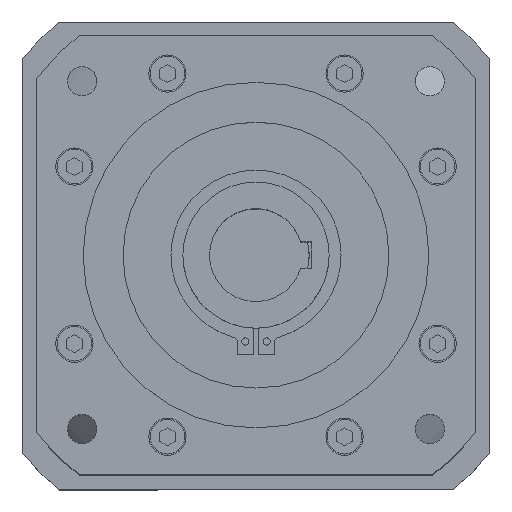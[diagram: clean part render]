
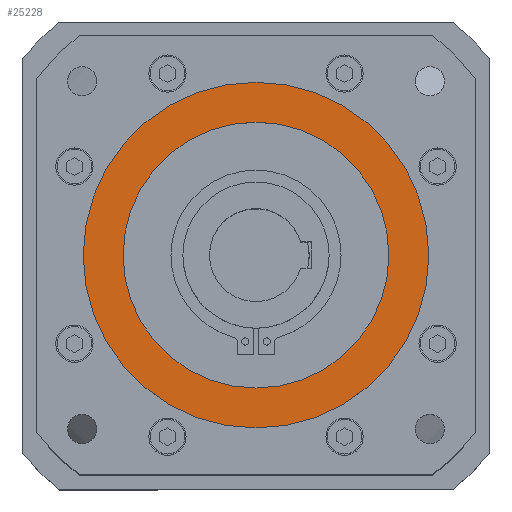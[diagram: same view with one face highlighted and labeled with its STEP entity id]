
A CAD part, top view. The second image highlights one B-rep face of the part: STEP entity #25228.
In plain terms, the highlighted planar face has unit normal (0, 0, 1).
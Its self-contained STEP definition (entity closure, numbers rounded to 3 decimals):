
#1616 = CARTESIAN_POINT ( 'NONE',  ( 0., 0., 0. ) ) ;
#1681 = ORIENTED_EDGE ( 'NONE', *, *, #22004, .F. ) ;
#1929 = CARTESIAN_POINT ( 'NONE',  ( 0., 0., 0. ) ) ;
#2830 = ORIENTED_EDGE ( 'NONE', *, *, #23560, .F. ) ;
#5278 = DIRECTION ( 'NONE',  ( 1., 0., 0. ) ) ;
#5601 = DIRECTION ( 'NONE',  ( 1., 0., 0. ) ) ;
#5812 = VERTEX_POINT ( 'NONE', #41366 ) ;
#9706 = PLANE ( 'NONE',  #42763 ) ;
#9928 = DIRECTION ( 'NONE',  ( 0., 0., 1. ) ) ;
#10499 = DIRECTION ( 'NONE',  ( 0., 0., 1. ) ) ;
#10593 = FACE_BOUND ( 'NONE', #47205, .T. ) ;
#11196 = AXIS2_PLACEMENT_3D ( 'NONE', #1929, #27876, #5601 ) ;
#13408 = DIRECTION ( 'NONE',  ( 0., 0., -1. ) ) ;
#13975 = CIRCLE ( 'NONE', #28811, 65. ) ;
#15085 = CARTESIAN_POINT ( 'NONE',  ( -65., 0., 0. ) ) ;
#15311 = CIRCLE ( 'NONE', #11196, 65. ) ;
#16666 = VERTEX_POINT ( 'NONE', #21629 ) ;
#21629 = CARTESIAN_POINT ( 'NONE',  ( 50., 0., 0. ) ) ;
#22004 = EDGE_CURVE ( 'NONE', #5812, #16666, #47694, .T. ) ;
#23560 = EDGE_CURVE ( 'NONE', #33213, #41074, #15311, .T. ) ;
#25228 = ADVANCED_FACE ( 'NONE', ( #10593, #39400 ), #9706, .F. ) ;
#26516 = EDGE_CURVE ( 'NONE', #41074, #33213, #13975, .T. ) ;
#27532 = DIRECTION ( 'NONE',  ( 0., 0., -1. ) ) ;
#27876 = DIRECTION ( 'NONE',  ( 0., 0., -1. ) ) ;
#28352 = AXIS2_PLACEMENT_3D ( 'NONE', #32923, #10499, #36774 ) ;
#28811 = AXIS2_PLACEMENT_3D ( 'NONE', #1616, #27532, #5278 ) ;
#32328 = CARTESIAN_POINT ( 'NONE',  ( 0., 0., 0. ) ) ;
#32923 = CARTESIAN_POINT ( 'NONE',  ( 0., 0., 0. ) ) ;
#33213 = VERTEX_POINT ( 'NONE', #47627 ) ;
#35262 = ORIENTED_EDGE ( 'NONE', *, *, #26516, .F. ) ;
#35999 = AXIS2_PLACEMENT_3D ( 'NONE', #32328, #9928, #36165 ) ;
#36165 = DIRECTION ( 'NONE',  ( 1., 0., 0. ) ) ;
#36774 = DIRECTION ( 'NONE',  ( 1., 0., 0. ) ) ;
#38151 = EDGE_CURVE ( 'NONE', #16666, #5812, #46459, .T. ) ;
#39400 = FACE_OUTER_BOUND ( 'NONE', #47915, .T. ) ;
#39559 = CARTESIAN_POINT ( 'NONE',  ( 0., 50., 0. ) ) ;
#39722 = DIRECTION ( 'NONE',  ( -1., 0., 0. ) ) ;
#41074 = VERTEX_POINT ( 'NONE', #15085 ) ;
#41366 = CARTESIAN_POINT ( 'NONE',  ( -50., 0., 0. ) ) ;
#42763 = AXIS2_PLACEMENT_3D ( 'NONE', #39559, #13408, #39722 ) ;
#46459 = CIRCLE ( 'NONE', #28352, 50. ) ;
#46990 = ORIENTED_EDGE ( 'NONE', *, *, #38151, .F. ) ;
#47205 = EDGE_LOOP ( 'NONE', ( #46990, #1681 ) ) ;
#47627 = CARTESIAN_POINT ( 'NONE',  ( 65., 0., 0. ) ) ;
#47694 = CIRCLE ( 'NONE', #35999, 50. ) ;
#47915 = EDGE_LOOP ( 'NONE', ( #2830, #35262 ) ) ;
